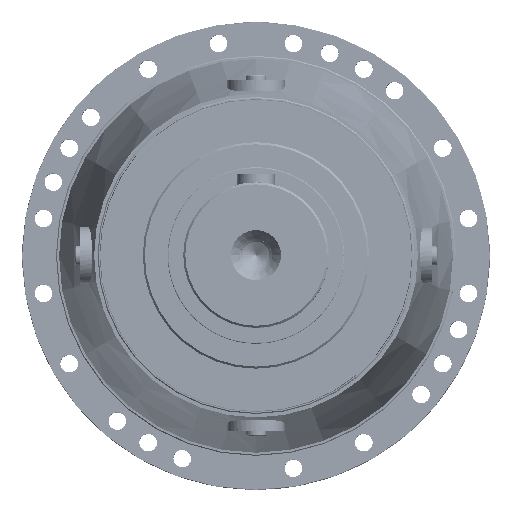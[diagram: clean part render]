
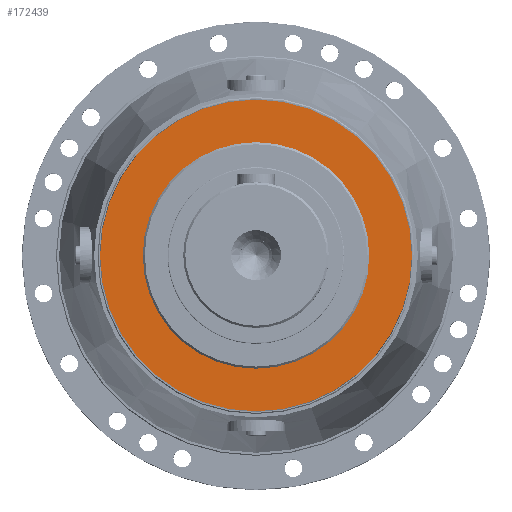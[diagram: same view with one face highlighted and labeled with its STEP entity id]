
A CAD part, top view. The second image highlights one B-rep face of the part: STEP entity #172439.
In plain terms, the highlighted planar face has unit normal (0, 0, 1).
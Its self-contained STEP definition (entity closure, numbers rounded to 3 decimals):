
#13195 = CARTESIAN_POINT ( 'NONE',  ( 0., -109., 220. ) ) ;
#13278 = CARTESIAN_POINT ( 'NONE',  ( 0., -150., 220. ) ) ;
#13394 = CARTESIAN_POINT ( 'NONE',  ( 0., 109., 220. ) ) ;
#13466 = CARTESIAN_POINT ( 'NONE',  ( 0., 150., 220. ) ) ;
#92974 = CARTESIAN_POINT ( 'NONE',  ( 0., 0., 220. ) ) ;
#93006 = DIRECTION ( 'NONE',  ( 0., 0., -1. ) ) ;
#93017 = DIRECTION ( 'NONE',  ( 0., 1., 0. ) ) ;
#99604 = CIRCLE ( 'NONE', #236234, 109. ) ;
#99624 = CIRCLE ( 'NONE', #236254, 150. ) ;
#99656 = CIRCLE ( 'NONE', #236179, 150. ) ;
#99730 = CIRCLE ( 'NONE', #236317, 109. ) ;
#104886 = DIRECTION ( 'NONE',  ( 0., 0., 1. ) ) ;
#104898 = DIRECTION ( 'NONE',  ( 0., 1., 0. ) ) ;
#104902 = CARTESIAN_POINT ( 'NONE',  ( 0., 0., 220. ) ) ;
#104934 = DIRECTION ( 'NONE',  ( 0., 0., -1. ) ) ;
#104985 = DIRECTION ( 'NONE',  ( 0., 1., 0. ) ) ;
#105017 = CARTESIAN_POINT ( 'NONE',  ( 0., 0., 220. ) ) ;
#105151 = DIRECTION ( 'NONE',  ( 0., 0., 1. ) ) ;
#105153 = DIRECTION ( 'NONE',  ( 0., 1., 0. ) ) ;
#105160 = CARTESIAN_POINT ( 'NONE',  ( 0., 0., 220. ) ) ;
#144392 = AXIS2_PLACEMENT_3D ( 'NONE', #233505, #233535, #233544 ) ;
#172439 = ADVANCED_FACE ( 'NONE', ( #223264, #223184 ), #233538, .F. ) ;
#200898 = EDGE_LOOP ( 'NONE', ( #303404, #303451 ) ) ;
#200999 = EDGE_LOOP ( 'NONE', ( #303418, #303414 ) ) ;
#223098 = VERTEX_POINT ( 'NONE', #13195 ) ;
#223151 = VERTEX_POINT ( 'NONE', #13278 ) ;
#223184 = FACE_OUTER_BOUND ( 'NONE', #200898, .T. ) ;
#223189 = VERTEX_POINT ( 'NONE', #13466 ) ;
#223211 = VERTEX_POINT ( 'NONE', #13394 ) ;
#223264 = FACE_BOUND ( 'NONE', #200999, .T. ) ;
#233505 = CARTESIAN_POINT ( 'NONE',  ( 0., 150., 220. ) ) ;
#233535 = DIRECTION ( 'NONE',  ( 0., 0., -1. ) ) ;
#233538 = PLANE ( 'NONE',  #144392 ) ;
#233544 = DIRECTION ( 'NONE',  ( 0., 1., 0. ) ) ;
#236179 = AXIS2_PLACEMENT_3D ( 'NONE', #92974, #93006, #93017 ) ;
#236234 = AXIS2_PLACEMENT_3D ( 'NONE', #104902, #104886, #104898 ) ;
#236254 = AXIS2_PLACEMENT_3D ( 'NONE', #105017, #104934, #104985 ) ;
#236317 = AXIS2_PLACEMENT_3D ( 'NONE', #105160, #105151, #105153 ) ;
#300357 = EDGE_CURVE ( 'NONE', #223189, #223151, #99656, .T. ) ;
#300442 = EDGE_CURVE ( 'NONE', #223211, #223098, #99604, .T. ) ;
#300537 = EDGE_CURVE ( 'NONE', #223151, #223189, #99624, .T. ) ;
#300766 = EDGE_CURVE ( 'NONE', #223098, #223211, #99730, .T. ) ;
#303404 = ORIENTED_EDGE ( 'NONE', *, *, #300357, .F. ) ;
#303414 = ORIENTED_EDGE ( 'NONE', *, *, #300766, .F. ) ;
#303418 = ORIENTED_EDGE ( 'NONE', *, *, #300442, .F. ) ;
#303451 = ORIENTED_EDGE ( 'NONE', *, *, #300537, .F. ) ;
